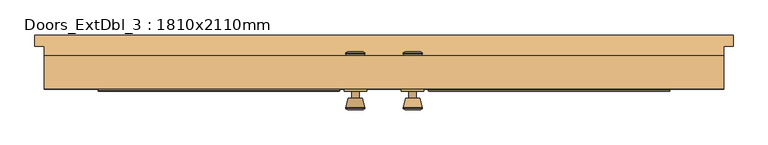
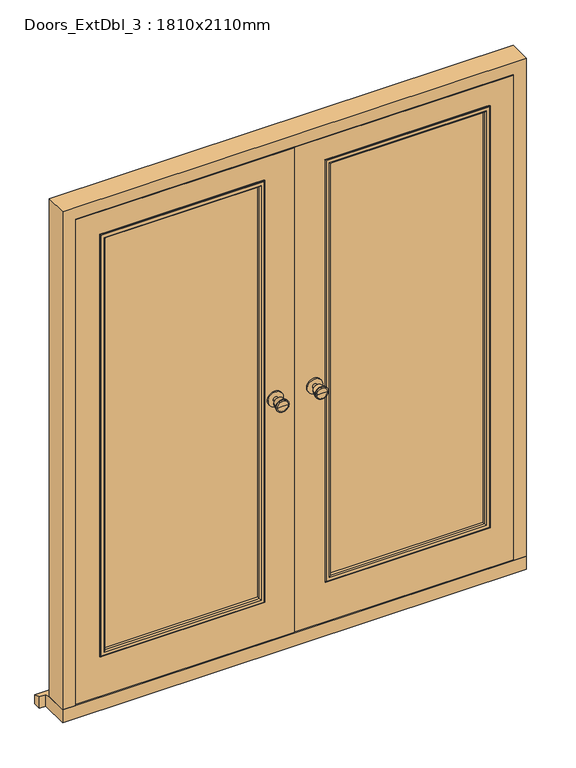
"""IFC4 building model written with IfcOpenShell, lengths in millimetres: door geometry, Doors_ExtDbl_3 : 1810x2110mm."""

from ifc_helpers import new_model, si_unit, point, frame, frame_2d, origin, place, context, project, spatial, polyline, circle_curve, ellipse_curve, trimmed, segment, composite_curve, outline, extrude, faceted_brep, source, transform, mapped, element, save
from ifc_brep_helpers import plane_surface, cylinder_surface, revolved_surface, advanced_brep


def doors_extdbl_3_1810x2110mm_e0e04a4e(model_context):
    return source(origin(), model_context, "Body", "SolidModel", [
        advanced_brep(
        [(-76.5, 5.0, 1050.0), (-66.5, 5.0, 1050.0), (-86.5, 5.0, 1050.0), (-96.9758676, -44.0, 1050.0), (-56.0241324, -44.0, 1050.0), (-76.5, -44.0, 1050.0), (-101.5, -42.1721319, 1050.0), (-51.5, -42.1721319, 1050.0), (-101.5, -38.7084537, 1050.0), (-51.5, -38.7084537, 1050.0), (-95.136236, -14.0, 1050.0), (-57.863764, -14.0, 1050.0), (-86.5, -14.0, 1050.0), (-66.5, -14.0, 1050.0)],
        [
            (0, 1),
            (1, 2, circle_curve(frame((-76.5, 5.0, 1050.0), z_axis=(0.0, 1.0, 0.0), x_axis=(1.0, 0.0, 0.0)), 10.0)),
            (2, 0),
            (2, 1, circle_curve(frame((-76.5, 5.0, 1050.0), z_axis=(0.0, 1.0, 0.0), x_axis=(1.0, 0.0, 0.0)), 10.0)),
            (3, 4, circle_curve(frame((-76.5, -44.0, 1050.0), z_axis=(0.0, -1.0, 0.0), x_axis=(1.0, 0.0, 0.0)), 20.4758676)),
            (4, 5),
            (5, 3),
            (4, 3, circle_curve(frame((-76.5, -44.0, 1050.0), z_axis=(0.0, -1.0, 0.0), x_axis=(1.0, 0.0, 0.0)), 20.4758676)),
            (6, 7, circle_curve(frame((-76.5, -42.1721319, 1050.0), z_axis=(0.0, -1.0, 0.0), x_axis=(1.0, 0.0, 0.0)), 25.0)),
            (7, 4),
            (3, 6),
            (7, 6, circle_curve(frame((-76.5, -42.1721319, 1050.0), z_axis=(0.0, -1.0, 0.0), x_axis=(1.0, 0.0, 0.0)), 25.0)),
            (8, 9, circle_curve(frame((-76.5, -38.7084537, 1050.0), z_axis=(0.0, -1.0, 0.0), x_axis=(1.0, 0.0, 0.0)), 25.0)),
            (9, 7),
            (6, 8),
            (9, 8, circle_curve(frame((-76.5, -38.7084537, 1050.0), z_axis=(0.0, -1.0, 0.0), x_axis=(1.0, 0.0, 0.0)), 25.0)),
            (10, 11, circle_curve(frame((-76.5, -14.0, 1050.0), z_axis=(0.0, -1.0, 0.0), x_axis=(1.0, 0.0, 0.0)), 18.636236)),
            (11, 9),
            (8, 10),
            (11, 10, circle_curve(frame((-76.5, -14.0, 1050.0), z_axis=(0.0, -1.0, 0.0), x_axis=(1.0, 0.0, 0.0)), 18.636236)),
            (12, 13, circle_curve(frame((-76.5, -14.0, 1050.0), z_axis=(0.0, -1.0, 0.0), x_axis=(1.0, 0.0, 0.0)), 10.0)),
            (13, 11),
            (10, 12),
            (13, 12, circle_curve(frame((-76.5, -14.0, 1050.0), z_axis=(0.0, -1.0, 0.0), x_axis=(1.0, 0.0, 0.0)), 10.0)),
            (1, 13),
            (12, 2),
        ],
        [
            plane_surface(frame((-76.5, 5.0, 1050.0), z_axis=(0.0, 1.0, 0.0), x_axis=(1.0, 0.0, 0.0))),
            plane_surface(frame((-76.5, -44.0, 1050.0), z_axis=(0.0, -1.0, 0.0), x_axis=(1.0, 0.0, 0.0))),
            revolved_surface(polyline([(-56.0241324, -44.0, 1050.0), (-51.5, -42.1721319, 1050.0)]), (-76.5, 5.0, 1050.0), (0.0, 1.0, 0.0)),
            cylinder_surface(frame((-76.5, 5.0, 1050.0), z_axis=(0.0, 1.0, 0.0), x_axis=(1.0, 0.0, 0.0)), 25.0),
            revolved_surface(polyline([(-51.5, -38.7084537, 1050.0), (-57.863764, -14.0, 1050.0)]), (-76.5, 5.0, 1050.0), (0.0, 1.0, 0.0)),
            plane_surface(frame((-76.5, -14.0, 1050.0), z_axis=(0.0, 1.0, 0.0), x_axis=(1.0, 0.0, 0.0))),
            cylinder_surface(frame((-76.5, 5.0, 1050.0), z_axis=(0.0, 1.0, 0.0), x_axis=(1.0, 0.0, 0.0)), 10.0),
        ],
        [
            (0, [[1, 2, 3]]),
            (0, [[-3, 4, -1]]),
            (1, [[5, 6, 7]]),
            (1, [[8, -7, -6]]),
            (2, [[9, 10, -5, 11]]),
            (2, [[12, -11, -8, -10]]),
            (3, [[13, 14, -9, 15]]),
            (3, [[16, -15, -12, -14]]),
            (4, [[17, 18, -13, 19]]),
            (4, [[20, -19, -16, -18]]),
            (5, [[21, 22, -17, 23]]),
            (5, [[24, -23, -20, -22]]),
            (6, [[-2, 25, -21, 26]]),
            (6, [[-4, -26, -24, -25]]),
        ],
    ),
        extrude(outline(composite_curve([segment(trimmed(circle_curve(frame_2d((1050.0, -76.5)), 30.0), [point((1050.0, -46.5))], [point((1050.0, -106.5))], False, "CARTESIAN"), True, "CONTINUOUS"), segment(trimmed(circle_curve(frame_2d((1050.0, -76.5)), 30.0), [point((1050.0, -106.5))], [point((1050.0, -46.5))], False, "CARTESIAN"), True, "CONTINUOUS")], self_intersect=False)), frame((0.0, 5.0, 0.0), z_axis=(0.0, 1.0, 0.0), x_axis=(0.0, 0.0, 1.0)), (0.0, 0.0, 1.0), 6.0),
        advanced_brep(
        [(-76.5, 61.0, 1050.0), (-86.5, 61.0, 1050.0), (-66.5, 61.0, 1050.0), (-96.9758676, 110.0, 1050.0), (-76.5, 110.0, 1050.0), (-56.0241324, 110.0, 1050.0), (-101.5, 108.1721319, 1050.0), (-51.5, 108.1721319, 1050.0), (-101.5, 104.7084537, 1050.0), (-51.5, 104.7084537, 1050.0), (-95.136236, 80.0, 1050.0), (-57.863764, 80.0, 1050.0), (-86.5, 80.0, 1050.0), (-66.5, 80.0, 1050.0)],
        [
            (0, 1),
            (1, 2, circle_curve(frame((-76.5, 61.0, 1050.0), z_axis=(0.0, -1.0, 0.0), x_axis=(1.0, 0.0, 0.0)), 10.0)),
            (2, 0),
            (2, 1, circle_curve(frame((-76.5, 61.0, 1050.0), z_axis=(0.0, -1.0, 0.0), x_axis=(1.0, 0.0, 0.0)), 10.0)),
            (3, 4),
            (4, 5),
            (5, 3, circle_curve(frame((-76.5, 110.0, 1050.0), z_axis=(0.0, 1.0, 0.0), x_axis=(1.0, 0.0, 0.0)), 20.4758676)),
            (3, 5, circle_curve(frame((-76.5, 110.0, 1050.0), z_axis=(0.0, 1.0, 0.0), x_axis=(1.0, 0.0, 0.0)), 20.4758676)),
            (6, 3),
            (5, 7),
            (7, 6, circle_curve(frame((-76.5, 108.1721319, 1050.0), z_axis=(0.0, 1.0, 0.0), x_axis=(1.0, 0.0, 0.0)), 25.0)),
            (6, 7, circle_curve(frame((-76.5, 108.1721319, 1050.0), z_axis=(0.0, 1.0, 0.0), x_axis=(1.0, 0.0, 0.0)), 25.0)),
            (8, 6),
            (7, 9),
            (9, 8, circle_curve(frame((-76.5, 104.7084537, 1050.0), z_axis=(0.0, 1.0, 0.0), x_axis=(1.0, 0.0, 0.0)), 25.0)),
            (8, 9, circle_curve(frame((-76.5, 104.7084537, 1050.0), z_axis=(0.0, 1.0, 0.0), x_axis=(1.0, 0.0, 0.0)), 25.0)),
            (10, 8),
            (9, 11),
            (11, 10, circle_curve(frame((-76.5, 80.0, 1050.0), z_axis=(0.0, 1.0, 0.0), x_axis=(1.0, 0.0, 0.0)), 18.636236)),
            (10, 11, circle_curve(frame((-76.5, 80.0, 1050.0), z_axis=(0.0, 1.0, 0.0), x_axis=(1.0, 0.0, 0.0)), 18.636236)),
            (12, 10),
            (11, 13),
            (13, 12, circle_curve(frame((-76.5, 80.0, 1050.0), z_axis=(0.0, 1.0, 0.0), x_axis=(1.0, 0.0, 0.0)), 10.0)),
            (12, 13, circle_curve(frame((-76.5, 80.0, 1050.0), z_axis=(0.0, 1.0, 0.0), x_axis=(1.0, 0.0, 0.0)), 10.0)),
            (1, 12),
            (13, 2),
        ],
        [
            plane_surface(frame((-76.5, 61.0, 1050.0), z_axis=(0.0, -1.0, 0.0), x_axis=(1.0, 0.0, 0.0))),
            plane_surface(frame((-76.5, 110.0, 1050.0), z_axis=(0.0, 1.0, 0.0), x_axis=(1.0, 0.0, 0.0))),
            revolved_surface(polyline([(-56.0241324, 110.0, 1050.0), (-51.5, 108.1721319, 1050.0)]), (-76.5, 61.0, 1050.0), (0.0, -1.0, 0.0)),
            cylinder_surface(frame((-76.5, 61.0, 1050.0), z_axis=(0.0, -1.0, 0.0), x_axis=(1.0, 0.0, 0.0)), 25.0),
            revolved_surface(polyline([(-51.5, 104.7084537, 1050.0), (-57.863764, 80.0, 1050.0)]), (-76.5, 61.0, 1050.0), (0.0, -1.0, 0.0)),
            plane_surface(frame((-76.5, 80.0, 1050.0), z_axis=(0.0, -1.0, 0.0), x_axis=(1.0, 0.0, 0.0))),
            cylinder_surface(frame((-76.5, 61.0, 1050.0), z_axis=(0.0, -1.0, 0.0), x_axis=(1.0, 0.0, 0.0)), 10.0),
        ],
        [
            (0, [[1, 2, 3]]),
            (0, [[-3, 4, -1]]),
            (1, [[5, 6, 7]]),
            (1, [[-6, -5, 8]]),
            (2, [[9, -7, 10, 11]]),
            (2, [[-10, -8, -9, 12]]),
            (3, [[13, -11, 14, 15]]),
            (3, [[-14, -12, -13, 16]]),
            (4, [[17, -15, 18, 19]]),
            (4, [[-18, -16, -17, 20]]),
            (5, [[21, -19, 22, 23]]),
            (5, [[-22, -20, -21, 24]]),
            (6, [[25, -23, 26, -2]]),
            (6, [[-26, -24, -25, -4]]),
        ],
    ),
        extrude(outline(composite_curve([segment(trimmed(circle_curve(frame_2d((1050.0, -76.5)), 30.0), [point((1050.0, -46.5))], [point((1050.0, -106.5))], False, "CARTESIAN"), True, "CONTINUOUS"), segment(trimmed(circle_curve(frame_2d((1050.0, -76.5)), 30.0), [point((1050.0, -106.5))], [point((1050.0, -46.5))], False, "CARTESIAN"), True, "CONTINUOUS")], self_intersect=False)), frame((0.0, 55.0, 0.0), z_axis=(0.0, 1.0, 0.0), x_axis=(0.0, 0.0, 1.0)), (0.0, 0.0, 1.0), 6.0),
        advanced_brep(
        [(76.5, 5.0, 1050.0), (86.5, 5.0, 1050.0), (66.5, 5.0, 1050.0), (96.9758676, -44.0, 1050.0), (76.5, -44.0, 1050.0), (56.0241324, -44.0, 1050.0), (101.5, -42.1721319, 1050.0), (51.5, -42.1721319, 1050.0), (101.5, -38.7084537, 1050.0), (51.5, -38.7084537, 1050.0), (95.136236, -14.0, 1050.0), (57.863764, -14.0, 1050.0), (86.5, -14.0, 1050.0), (66.5, -14.0, 1050.0)],
        [
            (0, 1),
            (1, 2, circle_curve(frame((76.5, 5.0, 1050.0), z_axis=(0.0, 1.0, 0.0), x_axis=(-1.0, 0.0, 0.0)), 10.0)),
            (2, 0),
            (2, 1, circle_curve(frame((76.5, 5.0, 1050.0), z_axis=(0.0, 1.0, 0.0), x_axis=(-1.0, 0.0, 0.0)), 10.0)),
            (3, 4),
            (4, 5),
            (5, 3, circle_curve(frame((76.5, -44.0, 1050.0), z_axis=(0.0, -1.0, 0.0), x_axis=(-1.0, 0.0, 0.0)), 20.4758676)),
            (3, 5, circle_curve(frame((76.5, -44.0, 1050.0), z_axis=(0.0, -1.0, 0.0), x_axis=(-1.0, 0.0, 0.0)), 20.4758676)),
            (6, 3),
            (5, 7),
            (7, 6, circle_curve(frame((76.5, -42.1721319, 1050.0), z_axis=(0.0, -1.0, 0.0), x_axis=(-1.0, 0.0, 0.0)), 25.0)),
            (6, 7, circle_curve(frame((76.5, -42.1721319, 1050.0), z_axis=(0.0, -1.0, 0.0), x_axis=(-1.0, 0.0, 0.0)), 25.0)),
            (8, 6),
            (7, 9),
            (9, 8, circle_curve(frame((76.5, -38.7084537, 1050.0), z_axis=(0.0, -1.0, 0.0), x_axis=(-1.0, 0.0, 0.0)), 25.0)),
            (8, 9, circle_curve(frame((76.5, -38.7084537, 1050.0), z_axis=(0.0, -1.0, 0.0), x_axis=(-1.0, 0.0, 0.0)), 25.0)),
            (10, 8),
            (9, 11),
            (11, 10, circle_curve(frame((76.5, -14.0, 1050.0), z_axis=(0.0, -1.0, 0.0), x_axis=(-1.0, 0.0, 0.0)), 18.636236)),
            (10, 11, circle_curve(frame((76.5, -14.0, 1050.0), z_axis=(0.0, -1.0, 0.0), x_axis=(-1.0, 0.0, 0.0)), 18.636236)),
            (12, 10),
            (11, 13),
            (13, 12, circle_curve(frame((76.5, -14.0, 1050.0), z_axis=(0.0, -1.0, 0.0), x_axis=(-1.0, 0.0, 0.0)), 10.0)),
            (12, 13, circle_curve(frame((76.5, -14.0, 1050.0), z_axis=(0.0, -1.0, 0.0), x_axis=(-1.0, 0.0, 0.0)), 10.0)),
            (1, 12),
            (13, 2),
        ],
        [
            plane_surface(frame((76.5, 5.0, 1050.0), z_axis=(0.0, 1.0, 0.0), x_axis=(-1.0, 0.0, 0.0))),
            plane_surface(frame((76.5, -44.0, 1050.0), z_axis=(0.0, -1.0, 0.0), x_axis=(-1.0, 0.0, 0.0))),
            revolved_surface(polyline([(56.0241324, -44.0, 1050.0), (51.5, -42.1721319, 1050.0)]), (76.5, 5.0, 1050.0), (0.0, 1.0, 0.0)),
            cylinder_surface(frame((76.5, 5.0, 1050.0), z_axis=(0.0, 1.0, 0.0), x_axis=(-1.0, 0.0, 0.0)), 25.0),
            revolved_surface(polyline([(51.5, -38.7084537, 1050.0), (57.863764, -14.0, 1050.0)]), (76.5, 5.0, 1050.0), (0.0, 1.0, 0.0)),
            plane_surface(frame((76.5, -14.0, 1050.0), z_axis=(0.0, 1.0, 0.0), x_axis=(-1.0, 0.0, 0.0))),
            cylinder_surface(frame((76.5, 5.0, 1050.0), z_axis=(0.0, 1.0, 0.0), x_axis=(-1.0, 0.0, 0.0)), 10.0),
        ],
        [
            (0, [[1, 2, 3]]),
            (0, [[-3, 4, -1]]),
            (1, [[5, 6, 7]]),
            (1, [[-6, -5, 8]]),
            (2, [[9, -7, 10, 11]]),
            (2, [[-10, -8, -9, 12]]),
            (3, [[13, -11, 14, 15]]),
            (3, [[-14, -12, -13, 16]]),
            (4, [[17, -15, 18, 19]]),
            (4, [[-18, -16, -17, 20]]),
            (5, [[21, -19, 22, 23]]),
            (5, [[-22, -20, -21, 24]]),
            (6, [[25, -23, 26, -2]]),
            (6, [[-26, -24, -25, -4]]),
        ],
    ),
        extrude(outline(composite_curve([segment(trimmed(circle_curve(frame_2d((1050.0, 76.5)), 30.0), [point((1050.0, 46.5))], [point((1050.0, 106.5))], False, "CARTESIAN"), True, "CONTINUOUS"), segment(trimmed(circle_curve(frame_2d((1050.0, 76.5)), 30.0), [point((1050.0, 106.5))], [point((1050.0, 46.5))], False, "CARTESIAN"), True, "CONTINUOUS")], self_intersect=False)), frame((0.0, 5.0, 0.0), z_axis=(0.0, 1.0, 0.0), x_axis=(0.0, 0.0, 1.0)), (0.0, 0.0, 1.0), 6.0),
        advanced_brep(
        [(76.5, 61.0, 1050.0), (66.5, 61.0, 1050.0), (86.5, 61.0, 1050.0), (96.9758676, 110.0, 1050.0), (56.0241324, 110.0, 1050.0), (76.5, 110.0, 1050.0), (101.5, 108.1721319, 1050.0), (51.5, 108.1721319, 1050.0), (101.5, 104.7084537, 1050.0), (51.5, 104.7084537, 1050.0), (95.136236, 80.0, 1050.0), (57.863764, 80.0, 1050.0), (86.5, 80.0, 1050.0), (66.5, 80.0, 1050.0)],
        [
            (0, 1),
            (1, 2, circle_curve(frame((76.5, 61.0, 1050.0), z_axis=(0.0, -1.0, 0.0), x_axis=(-1.0, 0.0, 0.0)), 10.0)),
            (2, 0),
            (2, 1, circle_curve(frame((76.5, 61.0, 1050.0), z_axis=(0.0, -1.0, 0.0), x_axis=(-1.0, 0.0, 0.0)), 10.0)),
            (3, 4, circle_curve(frame((76.5, 110.0, 1050.0), z_axis=(0.0, 1.0, 0.0), x_axis=(-1.0, 0.0, 0.0)), 20.4758676)),
            (4, 5),
            (5, 3),
            (4, 3, circle_curve(frame((76.5, 110.0, 1050.0), z_axis=(0.0, 1.0, 0.0), x_axis=(-1.0, 0.0, 0.0)), 20.4758676)),
            (6, 7, circle_curve(frame((76.5, 108.1721319, 1050.0), z_axis=(0.0, 1.0, 0.0), x_axis=(-1.0, 0.0, 0.0)), 25.0)),
            (7, 4),
            (3, 6),
            (7, 6, circle_curve(frame((76.5, 108.1721319, 1050.0), z_axis=(0.0, 1.0, 0.0), x_axis=(-1.0, 0.0, 0.0)), 25.0)),
            (8, 9, circle_curve(frame((76.5, 104.7084537, 1050.0), z_axis=(0.0, 1.0, 0.0), x_axis=(-1.0, 0.0, 0.0)), 25.0)),
            (9, 7),
            (6, 8),
            (9, 8, circle_curve(frame((76.5, 104.7084537, 1050.0), z_axis=(0.0, 1.0, 0.0), x_axis=(-1.0, 0.0, 0.0)), 25.0)),
            (10, 11, circle_curve(frame((76.5, 80.0, 1050.0), z_axis=(0.0, 1.0, 0.0), x_axis=(-1.0, 0.0, 0.0)), 18.636236)),
            (11, 9),
            (8, 10),
            (11, 10, circle_curve(frame((76.5, 80.0, 1050.0), z_axis=(0.0, 1.0, 0.0), x_axis=(-1.0, 0.0, 0.0)), 18.636236)),
            (12, 13, circle_curve(frame((76.5, 80.0, 1050.0), z_axis=(0.0, 1.0, 0.0), x_axis=(-1.0, 0.0, 0.0)), 10.0)),
            (13, 11),
            (10, 12),
            (13, 12, circle_curve(frame((76.5, 80.0, 1050.0), z_axis=(0.0, 1.0, 0.0), x_axis=(-1.0, 0.0, 0.0)), 10.0)),
            (1, 13),
            (12, 2),
        ],
        [
            plane_surface(frame((76.5, 61.0, 1050.0), z_axis=(0.0, -1.0, 0.0), x_axis=(-1.0, 0.0, 0.0))),
            plane_surface(frame((76.5, 110.0, 1050.0), z_axis=(0.0, 1.0, 0.0), x_axis=(-1.0, 0.0, 0.0))),
            revolved_surface(polyline([(56.0241324, 110.0, 1050.0), (51.5, 108.1721319, 1050.0)]), (76.5, 61.0, 1050.0), (0.0, -1.0, 0.0)),
            cylinder_surface(frame((76.5, 61.0, 1050.0), z_axis=(0.0, -1.0, 0.0), x_axis=(-1.0, 0.0, 0.0)), 25.0),
            revolved_surface(polyline([(51.5, 104.7084537, 1050.0), (57.863764, 80.0, 1050.0)]), (76.5, 61.0, 1050.0), (0.0, -1.0, 0.0)),
            plane_surface(frame((76.5, 80.0, 1050.0), z_axis=(0.0, -1.0, 0.0), x_axis=(-1.0, 0.0, 0.0))),
            cylinder_surface(frame((76.5, 61.0, 1050.0), z_axis=(0.0, -1.0, 0.0), x_axis=(-1.0, 0.0, 0.0)), 10.0),
        ],
        [
            (0, [[1, 2, 3]]),
            (0, [[-3, 4, -1]]),
            (1, [[5, 6, 7]]),
            (1, [[8, -7, -6]]),
            (2, [[9, 10, -5, 11]]),
            (2, [[12, -11, -8, -10]]),
            (3, [[13, 14, -9, 15]]),
            (3, [[16, -15, -12, -14]]),
            (4, [[17, 18, -13, 19]]),
            (4, [[20, -19, -16, -18]]),
            (5, [[21, 22, -17, 23]]),
            (5, [[24, -23, -20, -22]]),
            (6, [[-2, 25, -21, 26]]),
            (6, [[-4, -26, -24, -25]]),
        ],
    ),
        extrude(outline(composite_curve([segment(trimmed(circle_curve(frame_2d((1050.0, 76.5)), 30.0), [point((1050.0, 46.5))], [point((1050.0, 106.5))], False, "CARTESIAN"), True, "CONTINUOUS"), segment(trimmed(circle_curve(frame_2d((1050.0, 76.5)), 30.0), [point((1050.0, 106.5))], [point((1050.0, 46.5))], False, "CARTESIAN"), True, "CONTINUOUS")], self_intersect=False)), frame((0.0, 55.0, 0.0), z_axis=(0.0, 1.0, 0.0), x_axis=(0.0, 0.0, 1.0)), (0.0, 0.0, 1.0), 6.0),
        faceted_brep([(834.5, 100.0, 54.5), (905.0, 100.0, 54.5), (905.0, 11.0, 54.5), (856.5, 11.0, 54.5), (856.5, 58.0, 54.5), (834.5, 58.0, 54.5), (834.5, 100.0, 2039.5), (-834.5, 100.0, 2039.5), (-834.5, 100.0, 54.5), (-905.0, 100.0, 54.5), (-905.0, 100.0, 2110.0), (905.0, 100.0, 2110.0), (905.0, 11.0, 2110.0), (-905.0, 11.0, 2110.0), (-905.0, 11.0, 54.5), (-856.5, 11.0, 54.5), (-856.5, 11.0, 2061.5), (856.5, 11.0, 2061.5), (856.5, 58.0, 2061.5), (-856.5, 58.0, 2061.5), (-856.5, 58.0, 54.5), (-834.5, 58.0, 54.5), (-834.5, 58.0, 2039.5), (834.5, 58.0, 2039.5)], [[[0, 1, 2, 3, 4, 5]], [[1, 0, 6, 7, 8, 9, 10, 11]], [[2, 1, 11, 12]], [[3, 2, 12, 13, 14, 15, 16, 17]], [[4, 3, 17, 18]], [[5, 4, 18, 19, 20, 21, 22, 23]], [[0, 5, 23, 6]], [[7, 22, 21, 8]], [[8, 21, 20, 15, 14, 9]], [[13, 10, 9, 14]], [[19, 16, 15, 20]], [[12, 11, 10, 13]], [[18, 17, 16, 19]], [[6, 23, 22, 7]]]),
        extrude(outline(polyline([(58.5, 853.5), (2058.5, 853.5), (2058.5, 1.5), (58.5, 1.5), (58.5, 853.5)]), holes=[polyline([(1958.5, 753.5), (233.5, 753.5), (233.5, 126.5), (1958.5, 126.5), (1958.5, 753.5)])]), frame((0.0, 11.0, 0.0), z_axis=(0.0, 1.0, 0.0), x_axis=(0.0, 0.0, 1.0)), (0.0, 0.0, 1.0), 44.0),
        extrude(outline(polyline([(58.5, -853.5), (58.5, -1.5), (2058.5, -1.5), (2058.5, -853.5), (58.5, -853.5)]), holes=[polyline([(1958.5, -126.5), (233.5, -126.5), (233.5, -753.5), (1958.5, -753.5), (1958.5, -126.5)])]), frame((0.0, 11.0, 0.0), z_axis=(0.0, 1.0, 0.0), x_axis=(0.0, 0.0, 1.0)), (0.0, 0.0, 1.0), 44.0),
        faceted_brep([(930.0, 155.0, 0.0), (930.0, 155.0, 38.5947221), (930.0, 125.0, 47.2703282), (930.0, 125.0, 0.0), (-930.0, 155.0, 38.5947221), (-930.0, 155.0, 0.0), (-930.0, 125.0, 0.0), (-930.0, 125.0, 47.2703282), (905.0, 125.0, 0.0), (905.0, 11.0, 0.0), (-905.0, 11.0, 0.0), (-905.0, 125.0, 0.0), (-905.0, 125.0, 47.2703282), (-905.0, 100.0, 54.5), (905.0, 100.0, 54.5), (905.0, 125.0, 47.2703282), (-905.0, 11.0, 54.5), (905.0, 11.0, 54.5)], [[[0, 1, 2, 3]], [[4, 5, 6, 7]], [[5, 0, 3, 8, 9, 10, 11, 6]], [[1, 0, 5, 4]], [[1, 4, 7, 12, 13, 14, 15, 2]], [[13, 16, 17, 14]], [[16, 10, 9, 17]], [[12, 11, 10, 16, 13]], [[11, 12, 7, 6]], [[8, 15, 14, 17, 9]], [[15, 8, 3, 2]]]),
        extrude(outline(polyline([(126.5, 45.0), (753.5, 45.0), (753.5, 21.0), (126.5, 21.0), (126.5, 45.0)])), frame((0.0, 0.0, 233.5), z_axis=(0.0, 0.0, 1.0), x_axis=(1.0, 0.0, 0.0)), (0.0, 0.0, 1.0), 1725.0),
        extrude(outline(polyline([(-753.5, 45.0), (-126.5, 45.0), (-126.5, 21.0), (-753.5, 21.0), (-753.5, 45.0)])), frame((0.0, 0.0, 233.5), z_axis=(0.0, 0.0, 1.0), x_axis=(1.0, 0.0, 0.0)), (0.0, 0.0, 1.0), 1725.0),
        advanced_brep(
        [(118.5, 59.0, 225.5), (118.5, 55.0, 225.5), (118.5, 55.0, 1966.5), (118.5, 59.0, 1966.5), (120.5, 61.0, 227.5), (120.5, 61.0, 1964.5), (138.5, 56.0, 245.5), (133.5, 61.0, 240.5), (133.5, 61.0, 1951.5), (138.5, 56.0, 1946.5), (138.5, 45.0, 245.5), (138.5, 45.0, 1946.5), (126.5, 55.0, 233.5), (126.5, 45.0, 233.5), (126.5, 45.0, 1958.5), (126.5, 55.0, 1958.5), (761.5, 55.0, 1966.5), (761.5, 59.0, 1966.5), (759.5, 61.0, 1964.5), (746.5, 61.0, 1951.5), (741.5, 56.0, 1946.5), (741.5, 45.0, 1946.5), (753.5, 45.0, 1958.5), (753.5, 55.0, 1958.5), (761.5, 55.0, 225.5), (761.5, 59.0, 225.5), (759.5, 61.0, 227.5), (746.5, 61.0, 240.5), (741.5, 56.0, 245.5), (741.5, 45.0, 245.5), (753.5, 45.0, 233.5), (753.5, 55.0, 233.5)],
        [
            (0, 1),
            (1, 2),
            (2, 3),
            (3, 0),
            (4, 0, ellipse_curve(frame((120.5, 59.0, 227.5), z_axis=(-0.7071067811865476, 0.0, 0.7071067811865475), x_axis=(-0.7071067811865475, 0.0, -0.7071067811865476)), 2.8284271, 2.0)),
            (3, 5, ellipse_curve(frame((120.5, 59.0, 1964.5), z_axis=(-0.7071067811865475, 0.0, -0.7071067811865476), x_axis=(0.7071067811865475, 0.0, -0.7071067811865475)), 2.8284271, 2.0)),
            (5, 4),
            (6, 7, ellipse_curve(frame((133.5, 56.0, 240.5), z_axis=(-0.7071067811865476, 0.0, 0.7071067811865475), x_axis=(-0.7071067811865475, 0.0, -0.7071067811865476)), 7.0710678, 5.0)),
            (7, 8),
            (8, 9, ellipse_curve(frame((133.5, 56.0, 1951.5), z_axis=(-0.7071067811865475, 0.0, -0.7071067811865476), x_axis=(0.7071067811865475, 0.0, -0.7071067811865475)), 7.0710678, 5.0)),
            (9, 6),
            (10, 6),
            (9, 11),
            (11, 10),
            (12, 13),
            (13, 14),
            (14, 15),
            (15, 12),
            (2, 16),
            (16, 17),
            (17, 3),
            (17, 18, ellipse_curve(frame((759.5, 59.0, 1964.5), z_axis=(-0.7071067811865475, 0.0, 0.7071067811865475), x_axis=(-0.7071067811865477, 0.0, -0.7071067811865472)), 2.8284271, 2.0)),
            (18, 5),
            (8, 19),
            (19, 20, ellipse_curve(frame((746.5, 56.0, 1951.5), z_axis=(-0.7071067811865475, 0.0, 0.7071067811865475), x_axis=(-0.7071067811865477, 0.0, -0.7071067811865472)), 7.0710678, 5.0)),
            (20, 9),
            (20, 21),
            (21, 11),
            (14, 22),
            (22, 23),
            (23, 15),
            (16, 24),
            (24, 25),
            (25, 17),
            (25, 26, ellipse_curve(frame((759.5, 59.0, 227.5), z_axis=(0.7071067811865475, 0.0, 0.7071067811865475), x_axis=(-0.7071067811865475, 0.0, 0.7071067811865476)), 2.8284271, 2.0)),
            (26, 18),
            (19, 27),
            (27, 28, ellipse_curve(frame((746.5, 56.0, 240.5), z_axis=(0.7071067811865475, 0.0, 0.7071067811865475), x_axis=(-0.7071067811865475, 0.0, 0.7071067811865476)), 7.0710678, 5.0)),
            (28, 20),
            (28, 29),
            (29, 21),
            (22, 30),
            (30, 31),
            (31, 23),
            (24, 1),
            (0, 25),
            (4, 26),
            (7, 27),
            (6, 28),
            (10, 29),
            (13, 30),
            (12, 31),
        ],
        [
            plane_surface(frame((118.5, 55.0, 225.5), z_axis=(-1.0, 0.0, 0.0), x_axis=(0.0, 0.0, 1.0))),
            cylinder_surface(frame((120.5, 59.0, 233.5), z_axis=(0.0, 0.0, -1.0), x_axis=(-1.0, 0.0, 0.0)), 2.0),
            cylinder_surface(frame((133.5, 56.0, 233.5), z_axis=(0.0, 0.0, -1.0), x_axis=(-1.0, 0.0, 0.0)), 5.0),
            plane_surface(frame((138.5, 56.0, 245.5), z_axis=(1.0, 0.0, 0.0), x_axis=(0.0, 0.0, 1.0))),
            plane_surface(frame((126.5, 45.0, 233.5), z_axis=(-1.0, 0.0, 0.0), x_axis=(0.0, 0.0, 1.0))),
            plane_surface(frame((118.5, 55.0, 1966.5), z_axis=(0.0, 0.0, 1.0), x_axis=(1.0, 0.0, 0.0))),
            cylinder_surface(frame((126.5, 59.0, 1964.5), z_axis=(-1.0, 0.0, 0.0), x_axis=(0.0, 0.0, 1.0)), 2.0),
            cylinder_surface(frame((126.5, 56.0, 1951.5), z_axis=(-1.0, 0.0, 0.0), x_axis=(0.0, 0.0, 1.0)), 5.0),
            plane_surface(frame((138.5, 56.0, 1946.5), z_axis=(0.0, 0.0, -1.0), x_axis=(1.0, 0.0, 0.0))),
            plane_surface(frame((126.5, 45.0, 1958.5), z_axis=(0.0, 0.0, 1.0), x_axis=(1.0, 0.0, 0.0))),
            plane_surface(frame((761.5, 55.0, 1966.5), z_axis=(1.0, 0.0, 0.0), x_axis=(0.0, 0.0, -1.0))),
            cylinder_surface(frame((759.5, 59.0, 1958.5), z_axis=(0.0, 0.0, 1.0), x_axis=(1.0, 0.0, 0.0)), 2.0),
            cylinder_surface(frame((746.5, 56.0, 1958.5), z_axis=(0.0, 0.0, 1.0), x_axis=(1.0, 0.0, 0.0)), 5.0),
            plane_surface(frame((741.5, 56.0, 1946.5), z_axis=(-1.0, 0.0, 0.0), x_axis=(0.0, 0.0, -1.0))),
            plane_surface(frame((753.5, 45.0, 1958.5), z_axis=(1.0, 0.0, 0.0), x_axis=(0.0, 0.0, -1.0))),
            plane_surface(frame((761.5, 55.0, 225.5), z_axis=(0.0, 0.0, -1.0), x_axis=(-1.0, 0.0, 0.0))),
            cylinder_surface(frame((753.5, 59.0, 227.5), z_axis=(1.0, 0.0, 0.0), x_axis=(0.0, 0.0, -1.0)), 2.0),
            plane_surface(frame((759.5, 61.0, 227.5), z_axis=(0.0, 1.0, 0.0), x_axis=(-1.0, 0.0, 0.0))),
            cylinder_surface(frame((753.5, 56.0, 240.5), z_axis=(1.0, 0.0, 0.0), x_axis=(0.0, 0.0, -1.0)), 5.0),
            plane_surface(frame((741.5, 56.0, 245.5), z_axis=(0.0, 0.0, 1.0), x_axis=(-1.0, 0.0, 0.0))),
            plane_surface(frame((741.5, 45.0, 245.5), z_axis=(0.0, -1.0, 0.0), x_axis=(-1.0, 0.0, 0.0))),
            plane_surface(frame((753.5, 45.0, 233.5), z_axis=(0.0, 0.0, -1.0), x_axis=(-1.0, 0.0, 0.0))),
            plane_surface(frame((753.5, 55.0, 233.5), z_axis=(0.0, -1.0, 0.0), x_axis=(-1.0, 0.0, 0.0))),
        ],
        [
            (0, [[1, 2, 3, 4]]),
            (1, [[5, -4, 6, 7]]),
            (2, [[8, 9, 10, 11]]),
            (3, [[12, -11, 13, 14]]),
            (4, [[15, 16, 17, 18]]),
            (5, [[-3, 19, 20, 21]]),
            (6, [[-6, -21, 22, 23]]),
            (7, [[-10, 24, 25, 26]]),
            (8, [[-13, -26, 27, 28]]),
            (9, [[-17, 29, 30, 31]]),
            (10, [[-20, 32, 33, 34]]),
            (11, [[-22, -34, 35, 36]]),
            (12, [[-25, 37, 38, 39]]),
            (13, [[-27, -39, 40, 41]]),
            (14, [[-30, 42, 43, 44]]),
            (15, [[-33, 45, -1, 46]]),
            (16, [[-35, -46, -5, 47]]),
            (17, [[-23, -36, -47, -7], [48, -37, -24, -9]]),
            (18, [[-38, -48, -8, 49]]),
            (19, [[-40, -49, -12, 50]]),
            (20, [[51, -42, -29, -16], [-28, -41, -50, -14]]),
            (21, [[-43, -51, -15, 52]]),
            (22, [[-45, -32, -19, -2], [-31, -44, -52, -18]]),
        ],
    ),
        advanced_brep(
        [(753.5, 21.0, 1958.5), (753.5, 11.0, 1958.5), (753.5, 11.0, 233.5), (753.5, 21.0, 233.5), (741.5, 10.0, 1946.5), (741.5, 21.0, 1946.5), (741.5, 21.0, 245.5), (741.5, 10.0, 245.5), (746.5, 5.0, 1951.5), (746.5, 5.0, 240.5), (761.5, 7.0, 1966.5), (759.5, 5.0, 1964.5), (759.5, 5.0, 227.5), (761.5, 7.0, 225.5), (761.5, 11.0, 1966.5), (761.5, 11.0, 225.5), (126.5, 11.0, 233.5), (126.5, 21.0, 233.5), (138.5, 21.0, 245.5), (138.5, 10.0, 245.5), (133.5, 5.0, 240.5), (120.5, 5.0, 227.5), (118.5, 7.0, 225.5), (118.5, 11.0, 225.5), (126.5, 11.0, 1958.5), (126.5, 21.0, 1958.5), (138.5, 21.0, 1946.5), (138.5, 10.0, 1946.5), (133.5, 5.0, 1951.5), (120.5, 5.0, 1964.5), (118.5, 7.0, 1966.5), (118.5, 11.0, 1966.5)],
        [
            (0, 1),
            (1, 2),
            (2, 3),
            (3, 0),
            (4, 5),
            (5, 6),
            (6, 7),
            (7, 4),
            (8, 4, ellipse_curve(frame((746.5, 10.0, 1951.5), z_axis=(0.7071067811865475, 0.0, -0.7071067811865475), x_axis=(0.7071067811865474, 0.0, 0.7071067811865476)), 7.0710678, 5.0)),
            (7, 9, ellipse_curve(frame((746.5, 10.0, 240.5), z_axis=(0.7071067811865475, 0.0, 0.7071067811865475), x_axis=(-0.7071067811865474, 0.0, 0.7071067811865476)), 7.0710678, 5.0)),
            (9, 8),
            (10, 11, ellipse_curve(frame((759.5, 7.0, 1964.5), z_axis=(0.7071067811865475, 0.0, -0.7071067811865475), x_axis=(0.7071067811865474, 0.0, 0.7071067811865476)), 2.8284271, 2.0)),
            (11, 12),
            (12, 13, ellipse_curve(frame((759.5, 7.0, 227.5), z_axis=(0.7071067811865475, 0.0, 0.7071067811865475), x_axis=(-0.7071067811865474, 0.0, 0.7071067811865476)), 2.8284271, 2.0)),
            (13, 10),
            (14, 10),
            (13, 15),
            (15, 14),
            (2, 16),
            (16, 17),
            (17, 3),
            (6, 18),
            (18, 19),
            (19, 7),
            (19, 20, ellipse_curve(frame((133.5, 10.0, 240.5), z_axis=(0.7071067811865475, 0.0, -0.7071067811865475), x_axis=(0.7071067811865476, 0.0, 0.7071067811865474)), 7.0710678, 5.0)),
            (20, 9),
            (12, 21),
            (21, 22, ellipse_curve(frame((120.5, 7.0, 227.5), z_axis=(0.7071067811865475, 0.0, -0.7071067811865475), x_axis=(0.7071067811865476, 0.0, 0.7071067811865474)), 2.8284271, 2.0)),
            (22, 13),
            (22, 23),
            (23, 15),
            (16, 24),
            (24, 25),
            (25, 17),
            (18, 26),
            (26, 27),
            (27, 19),
            (27, 28, ellipse_curve(frame((133.5, 10.0, 1951.5), z_axis=(-0.7071067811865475, 0.0, -0.7071067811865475), x_axis=(0.7071067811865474, 0.0, -0.7071067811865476)), 7.0710678, 5.0)),
            (28, 20),
            (21, 29),
            (29, 30, ellipse_curve(frame((120.5, 7.0, 1964.5), z_axis=(-0.7071067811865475, 0.0, -0.7071067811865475), x_axis=(0.7071067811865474, 0.0, -0.7071067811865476)), 2.8284271, 2.0)),
            (30, 22),
            (30, 31),
            (31, 23),
            (31, 14),
            (1, 24),
            (0, 25),
            (5, 26),
            (4, 27),
            (8, 28),
            (11, 29),
            (10, 30),
        ],
        [
            plane_surface(frame((753.5, 11.0, 1958.5), z_axis=(1.0, 0.0, 0.0), x_axis=(0.0, 0.0, -1.0))),
            plane_surface(frame((741.5, 21.0, 1946.5), z_axis=(-1.0, 0.0, 0.0), x_axis=(0.0, 0.0, -1.0))),
            cylinder_surface(frame((746.5, 10.0, 1958.5), z_axis=(0.0, 0.0, 1.0), x_axis=(1.0, 0.0, 0.0)), 5.0),
            cylinder_surface(frame((759.5, 7.0, 1958.5), z_axis=(0.0, 0.0, 1.0), x_axis=(1.0, 0.0, 0.0)), 2.0),
            plane_surface(frame((761.5, 7.0, 1966.5), z_axis=(1.0, 0.0, 0.0), x_axis=(0.0, 0.0, -1.0))),
            plane_surface(frame((753.5, 11.0, 233.5), z_axis=(0.0, 0.0, -1.0), x_axis=(-1.0, 0.0, 0.0))),
            plane_surface(frame((741.5, 21.0, 245.5), z_axis=(0.0, 0.0, 1.0), x_axis=(-1.0, 0.0, 0.0))),
            cylinder_surface(frame((753.5, 10.0, 240.5), z_axis=(1.0, 0.0, 0.0), x_axis=(0.0, 0.0, -1.0)), 5.0),
            cylinder_surface(frame((753.5, 7.0, 227.5), z_axis=(1.0, 0.0, 0.0), x_axis=(0.0, 0.0, -1.0)), 2.0),
            plane_surface(frame((761.5, 7.0, 225.5), z_axis=(0.0, 0.0, -1.0), x_axis=(-1.0, 0.0, 0.0))),
            plane_surface(frame((126.5, 11.0, 233.5), z_axis=(-1.0, 0.0, 0.0), x_axis=(0.0, 0.0, 1.0))),
            plane_surface(frame((138.5, 21.0, 245.5), z_axis=(1.0, 0.0, 0.0), x_axis=(0.0, 0.0, 1.0))),
            cylinder_surface(frame((133.5, 10.0, 233.5), z_axis=(0.0, 0.0, -1.0), x_axis=(-1.0, 0.0, 0.0)), 5.0),
            cylinder_surface(frame((120.5, 7.0, 233.5), z_axis=(0.0, 0.0, -1.0), x_axis=(-1.0, 0.0, 0.0)), 2.0),
            plane_surface(frame((118.5, 7.0, 225.5), z_axis=(-1.0, 0.0, 0.0), x_axis=(0.0, 0.0, 1.0))),
            plane_surface(frame((118.5, 11.0, 1966.5), z_axis=(0.0, 1.0, 0.0), x_axis=(1.0, 0.0, 0.0))),
            plane_surface(frame((126.5, 11.0, 1958.5), z_axis=(0.0, 0.0, 1.0), x_axis=(1.0, 0.0, 0.0))),
            plane_surface(frame((126.5, 21.0, 1958.5), z_axis=(0.0, 1.0, 0.0), x_axis=(1.0, 0.0, 0.0))),
            plane_surface(frame((138.5, 21.0, 1946.5), z_axis=(0.0, 0.0, -1.0), x_axis=(1.0, 0.0, 0.0))),
            cylinder_surface(frame((126.5, 10.0, 1951.5), z_axis=(-1.0, 0.0, 0.0), x_axis=(0.0, 0.0, 1.0)), 5.0),
            plane_surface(frame((133.5, 5.0, 1951.5), z_axis=(0.0, -1.0, 0.0), x_axis=(1.0, 0.0, 0.0))),
            cylinder_surface(frame((126.5, 7.0, 1964.5), z_axis=(-1.0, 0.0, 0.0), x_axis=(0.0, 0.0, 1.0)), 2.0),
            plane_surface(frame((118.5, 7.0, 1966.5), z_axis=(0.0, 0.0, 1.0), x_axis=(1.0, 0.0, 0.0))),
        ],
        [
            (0, [[1, 2, 3, 4]]),
            (1, [[5, 6, 7, 8]]),
            (2, [[9, -8, 10, 11]]),
            (3, [[12, 13, 14, 15]]),
            (4, [[16, -15, 17, 18]]),
            (5, [[-3, 19, 20, 21]]),
            (6, [[-7, 22, 23, 24]]),
            (7, [[-10, -24, 25, 26]]),
            (8, [[-14, 27, 28, 29]]),
            (9, [[-17, -29, 30, 31]]),
            (10, [[-20, 32, 33, 34]]),
            (11, [[-23, 35, 36, 37]]),
            (12, [[-25, -37, 38, 39]]),
            (13, [[-28, 40, 41, 42]]),
            (14, [[-30, -42, 43, 44]]),
            (15, [[-31, -44, 45, -18], [46, -32, -19, -2]]),
            (16, [[-33, -46, -1, 47]]),
            (17, [[-21, -34, -47, -4], [48, -35, -22, -6]]),
            (18, [[-36, -48, -5, 49]]),
            (19, [[-38, -49, -9, 50]]),
            (20, [[51, -40, -27, -13], [-26, -39, -50, -11]]),
            (21, [[-41, -51, -12, 52]]),
            (22, [[-43, -52, -16, -45]]),
        ],
    ),
        advanced_brep(
        [(-753.5, 45.0, 1958.5), (-753.5, 55.0, 1958.5), (-753.5, 55.0, 233.5), (-753.5, 45.0, 233.5), (-741.5, 56.0, 1946.5), (-741.5, 45.0, 1946.5), (-741.5, 45.0, 245.5), (-741.5, 56.0, 245.5), (-746.5, 61.0, 1951.5), (-746.5, 61.0, 240.5), (-761.5, 59.0, 1966.5), (-759.5, 61.0, 1964.5), (-759.5, 61.0, 227.5), (-761.5, 59.0, 225.5), (-761.5, 55.0, 1966.5), (-761.5, 55.0, 225.5), (-126.5, 55.0, 233.5), (-126.5, 45.0, 233.5), (-138.5, 45.0, 245.5), (-138.5, 56.0, 245.5), (-133.5, 61.0, 240.5), (-120.5, 61.0, 227.5), (-118.5, 59.0, 225.5), (-118.5, 55.0, 225.5), (-126.5, 55.0, 1958.5), (-126.5, 45.0, 1958.5), (-138.5, 45.0, 1946.5), (-138.5, 56.0, 1946.5), (-133.5, 61.0, 1951.5), (-120.5, 61.0, 1964.5), (-118.5, 59.0, 1966.5), (-118.5, 55.0, 1966.5)],
        [
            (0, 1),
            (1, 2),
            (2, 3),
            (3, 0),
            (4, 5),
            (5, 6),
            (6, 7),
            (7, 4),
            (8, 4, ellipse_curve(frame((-746.5, 56.0, 1951.5), z_axis=(-0.7071067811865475, 0.0, -0.7071067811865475), x_axis=(-0.7071067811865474, 0.0, 0.7071067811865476)), 7.0710678, 5.0)),
            (7, 9, ellipse_curve(frame((-746.5, 56.0, 240.5), z_axis=(-0.7071067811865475, 0.0, 0.7071067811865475), x_axis=(0.7071067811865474, 0.0, 0.7071067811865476)), 7.0710678, 5.0)),
            (9, 8),
            (10, 11, ellipse_curve(frame((-759.5, 59.0, 1964.5), z_axis=(-0.7071067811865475, 0.0, -0.7071067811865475), x_axis=(-0.7071067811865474, 0.0, 0.7071067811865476)), 2.8284271, 2.0)),
            (11, 12),
            (12, 13, ellipse_curve(frame((-759.5, 59.0, 227.5), z_axis=(-0.7071067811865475, 0.0, 0.7071067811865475), x_axis=(0.7071067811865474, 0.0, 0.7071067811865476)), 2.8284271, 2.0)),
            (13, 10),
            (14, 10),
            (13, 15),
            (15, 14),
            (2, 16),
            (16, 17),
            (17, 3),
            (6, 18),
            (18, 19),
            (19, 7),
            (19, 20, ellipse_curve(frame((-133.5, 56.0, 240.5), z_axis=(-0.7071067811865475, 0.0, -0.7071067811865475), x_axis=(-0.7071067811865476, 0.0, 0.7071067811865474)), 7.0710678, 5.0)),
            (20, 9),
            (12, 21),
            (21, 22, ellipse_curve(frame((-120.5, 59.0, 227.5), z_axis=(-0.7071067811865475, 0.0, -0.7071067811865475), x_axis=(-0.7071067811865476, 0.0, 0.7071067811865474)), 2.8284271, 2.0)),
            (22, 13),
            (22, 23),
            (23, 15),
            (16, 24),
            (24, 25),
            (25, 17),
            (18, 26),
            (26, 27),
            (27, 19),
            (27, 28, ellipse_curve(frame((-133.5, 56.0, 1951.5), z_axis=(0.7071067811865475, 0.0, -0.7071067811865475), x_axis=(-0.7071067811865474, 0.0, -0.7071067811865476)), 7.0710678, 5.0)),
            (28, 20),
            (21, 29),
            (29, 30, ellipse_curve(frame((-120.5, 59.0, 1964.5), z_axis=(0.7071067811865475, 0.0, -0.7071067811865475), x_axis=(-0.7071067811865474, 0.0, -0.7071067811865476)), 2.8284271, 2.0)),
            (30, 22),
            (30, 31),
            (31, 23),
            (31, 14),
            (1, 24),
            (0, 25),
            (5, 26),
            (4, 27),
            (8, 28),
            (11, 29),
            (10, 30),
        ],
        [
            plane_surface(frame((-753.5, 55.0, 1958.5), z_axis=(-1.0, 0.0, 0.0), x_axis=(0.0, 0.0, -1.0))),
            plane_surface(frame((-741.5, 45.0, 1946.5), z_axis=(1.0, 0.0, 0.0), x_axis=(0.0, 0.0, -1.0))),
            cylinder_surface(frame((-746.5, 56.0, 1958.5), z_axis=(0.0, 0.0, 1.0), x_axis=(-1.0, 0.0, 0.0)), 5.0),
            cylinder_surface(frame((-759.5, 59.0, 1958.5), z_axis=(0.0, 0.0, 1.0), x_axis=(-1.0, 0.0, 0.0)), 2.0),
            plane_surface(frame((-761.5, 59.0, 1966.5), z_axis=(-1.0, 0.0, 0.0), x_axis=(0.0, 0.0, -1.0))),
            plane_surface(frame((-753.5, 55.0, 233.5), z_axis=(0.0, 0.0, -1.0), x_axis=(1.0, 0.0, 0.0))),
            plane_surface(frame((-741.5, 45.0, 245.5), z_axis=(0.0, 0.0, 1.0), x_axis=(1.0, 0.0, 0.0))),
            cylinder_surface(frame((-753.5, 56.0, 240.5), z_axis=(-1.0, 0.0, 0.0), x_axis=(0.0, 0.0, -1.0)), 5.0),
            cylinder_surface(frame((-753.5, 59.0, 227.5), z_axis=(-1.0, 0.0, 0.0), x_axis=(0.0, 0.0, -1.0)), 2.0),
            plane_surface(frame((-761.5, 59.0, 225.5), z_axis=(0.0, 0.0, -1.0), x_axis=(1.0, 0.0, 0.0))),
            plane_surface(frame((-126.5, 55.0, 233.5), z_axis=(1.0, 0.0, 0.0), x_axis=(0.0, 0.0, 1.0))),
            plane_surface(frame((-138.5, 45.0, 245.5), z_axis=(-1.0, 0.0, 0.0), x_axis=(0.0, 0.0, 1.0))),
            cylinder_surface(frame((-133.5, 56.0, 233.5), z_axis=(0.0, 0.0, -1.0), x_axis=(1.0, 0.0, 0.0)), 5.0),
            cylinder_surface(frame((-120.5, 59.0, 233.5), z_axis=(0.0, 0.0, -1.0), x_axis=(1.0, 0.0, 0.0)), 2.0),
            plane_surface(frame((-118.5, 59.0, 225.5), z_axis=(1.0, 0.0, 0.0), x_axis=(0.0, 0.0, 1.0))),
            plane_surface(frame((-118.5, 55.0, 1966.5), z_axis=(0.0, -1.0, 0.0), x_axis=(-1.0, 0.0, 0.0))),
            plane_surface(frame((-126.5, 55.0, 1958.5), z_axis=(0.0, 0.0, 1.0), x_axis=(-1.0, 0.0, 0.0))),
            plane_surface(frame((-126.5, 45.0, 1958.5), z_axis=(0.0, -1.0, 0.0), x_axis=(-1.0, 0.0, 0.0))),
            plane_surface(frame((-138.5, 45.0, 1946.5), z_axis=(0.0, 0.0, -1.0), x_axis=(-1.0, 0.0, 0.0))),
            cylinder_surface(frame((-126.5, 56.0, 1951.5), z_axis=(1.0, 0.0, 0.0), x_axis=(0.0, 0.0, 1.0)), 5.0),
            plane_surface(frame((-133.5, 61.0, 1951.5), z_axis=(0.0, 1.0, 0.0), x_axis=(-1.0, 0.0, 0.0))),
            cylinder_surface(frame((-126.5, 59.0, 1964.5), z_axis=(1.0, 0.0, 0.0), x_axis=(0.0, 0.0, 1.0)), 2.0),
            plane_surface(frame((-118.5, 59.0, 1966.5), z_axis=(0.0, 0.0, 1.0), x_axis=(-1.0, 0.0, 0.0))),
        ],
        [
            (0, [[1, 2, 3, 4]]),
            (1, [[5, 6, 7, 8]]),
            (2, [[9, -8, 10, 11]]),
            (3, [[12, 13, 14, 15]]),
            (4, [[16, -15, 17, 18]]),
            (5, [[-3, 19, 20, 21]]),
            (6, [[-7, 22, 23, 24]]),
            (7, [[-10, -24, 25, 26]]),
            (8, [[-14, 27, 28, 29]]),
            (9, [[-17, -29, 30, 31]]),
            (10, [[-20, 32, 33, 34]]),
            (11, [[-23, 35, 36, 37]]),
            (12, [[-25, -37, 38, 39]]),
            (13, [[-28, 40, 41, 42]]),
            (14, [[-30, -42, 43, 44]]),
            (15, [[-31, -44, 45, -18], [46, -32, -19, -2]]),
            (16, [[-33, -46, -1, 47]]),
            (17, [[-21, -34, -47, -4], [48, -35, -22, -6]]),
            (18, [[-36, -48, -5, 49]]),
            (19, [[-38, -49, -9, 50]]),
            (20, [[51, -40, -27, -13], [-26, -39, -50, -11]]),
            (21, [[-41, -51, -12, 52]]),
            (22, [[-43, -52, -16, -45]]),
        ],
    ),
        advanced_brep(
        [(-761.5, 7.0, 1966.5), (-761.5, 11.0, 1966.5), (-761.5, 11.0, 225.5), (-761.5, 7.0, 225.5), (-759.5, 5.0, 1964.5), (-759.5, 5.0, 227.5), (-741.5, 10.0, 1946.5), (-746.5, 5.0, 1951.5), (-746.5, 5.0, 240.5), (-741.5, 10.0, 245.5), (-741.5, 21.0, 1946.5), (-741.5, 21.0, 245.5), (-753.5, 11.0, 1958.5), (-753.5, 21.0, 1958.5), (-753.5, 21.0, 233.5), (-753.5, 11.0, 233.5), (-118.5, 11.0, 225.5), (-118.5, 7.0, 225.5), (-120.5, 5.0, 227.5), (-133.5, 5.0, 240.5), (-138.5, 10.0, 245.5), (-138.5, 21.0, 245.5), (-126.5, 21.0, 233.5), (-126.5, 11.0, 233.5), (-118.5, 11.0, 1966.5), (-118.5, 7.0, 1966.5), (-120.5, 5.0, 1964.5), (-133.5, 5.0, 1951.5), (-138.5, 10.0, 1946.5), (-138.5, 21.0, 1946.5), (-126.5, 21.0, 1958.5), (-126.5, 11.0, 1958.5)],
        [
            (0, 1),
            (1, 2),
            (2, 3),
            (3, 0),
            (4, 0, ellipse_curve(frame((-759.5, 7.0, 1964.5), z_axis=(-0.7071067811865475, 0.0, -0.7071067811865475), x_axis=(-0.7071067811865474, 0.0, 0.7071067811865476)), 2.8284271, 2.0)),
            (3, 5, ellipse_curve(frame((-759.5, 7.0, 227.5), z_axis=(-0.7071067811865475, 0.0, 0.7071067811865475), x_axis=(0.7071067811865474, 0.0, 0.7071067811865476)), 2.8284271, 2.0)),
            (5, 4),
            (6, 7, ellipse_curve(frame((-746.5, 10.0, 1951.5), z_axis=(-0.7071067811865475, 0.0, -0.7071067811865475), x_axis=(-0.7071067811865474, 0.0, 0.7071067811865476)), 7.0710678, 5.0)),
            (7, 8),
            (8, 9, ellipse_curve(frame((-746.5, 10.0, 240.5), z_axis=(-0.7071067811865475, 0.0, 0.7071067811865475), x_axis=(0.7071067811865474, 0.0, 0.7071067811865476)), 7.0710678, 5.0)),
            (9, 6),
            (10, 6),
            (9, 11),
            (11, 10),
            (12, 13),
            (13, 14),
            (14, 15),
            (15, 12),
            (2, 16),
            (16, 17),
            (17, 3),
            (17, 18, ellipse_curve(frame((-120.5, 7.0, 227.5), z_axis=(-0.7071067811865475, 0.0, -0.7071067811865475), x_axis=(-0.7071067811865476, 0.0, 0.7071067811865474)), 2.8284271, 2.0)),
            (18, 5),
            (8, 19),
            (19, 20, ellipse_curve(frame((-133.5, 10.0, 240.5), z_axis=(-0.7071067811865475, 0.0, -0.7071067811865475), x_axis=(-0.7071067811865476, 0.0, 0.7071067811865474)), 7.0710678, 5.0)),
            (20, 9),
            (20, 21),
            (21, 11),
            (14, 22),
            (22, 23),
            (23, 15),
            (16, 24),
            (24, 25),
            (25, 17),
            (25, 26, ellipse_curve(frame((-120.5, 7.0, 1964.5), z_axis=(0.7071067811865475, 0.0, -0.7071067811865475), x_axis=(-0.7071067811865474, 0.0, -0.7071067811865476)), 2.8284271, 2.0)),
            (26, 18),
            (19, 27),
            (27, 28, ellipse_curve(frame((-133.5, 10.0, 1951.5), z_axis=(0.7071067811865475, 0.0, -0.7071067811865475), x_axis=(-0.7071067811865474, 0.0, -0.7071067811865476)), 7.0710678, 5.0)),
            (28, 20),
            (28, 29),
            (29, 21),
            (22, 30),
            (30, 31),
            (31, 23),
            (24, 1),
            (0, 25),
            (4, 26),
            (7, 27),
            (6, 28),
            (10, 29),
            (13, 30),
            (12, 31),
        ],
        [
            plane_surface(frame((-761.5, 11.0, 1966.5), z_axis=(-1.0, 0.0, 0.0), x_axis=(0.0, 0.0, -1.0))),
            cylinder_surface(frame((-759.5, 7.0, 1958.5), z_axis=(0.0, 0.0, 1.0), x_axis=(-1.0, 0.0, 0.0)), 2.0),
            cylinder_surface(frame((-746.5, 10.0, 1958.5), z_axis=(0.0, 0.0, 1.0), x_axis=(-1.0, 0.0, 0.0)), 5.0),
            plane_surface(frame((-741.5, 10.0, 1946.5), z_axis=(1.0, 0.0, 0.0), x_axis=(0.0, 0.0, -1.0))),
            plane_surface(frame((-753.5, 21.0, 1958.5), z_axis=(-1.0, 0.0, 0.0), x_axis=(0.0, 0.0, -1.0))),
            plane_surface(frame((-761.5, 11.0, 225.5), z_axis=(0.0, 0.0, -1.0), x_axis=(1.0, 0.0, 0.0))),
            cylinder_surface(frame((-753.5, 7.0, 227.5), z_axis=(-1.0, 0.0, 0.0), x_axis=(0.0, 0.0, -1.0)), 2.0),
            cylinder_surface(frame((-753.5, 10.0, 240.5), z_axis=(-1.0, 0.0, 0.0), x_axis=(0.0, 0.0, -1.0)), 5.0),
            plane_surface(frame((-741.5, 10.0, 245.5), z_axis=(0.0, 0.0, 1.0), x_axis=(1.0, 0.0, 0.0))),
            plane_surface(frame((-753.5, 21.0, 233.5), z_axis=(0.0, 0.0, -1.0), x_axis=(1.0, 0.0, 0.0))),
            plane_surface(frame((-118.5, 11.0, 225.5), z_axis=(1.0, 0.0, 0.0), x_axis=(0.0, 0.0, 1.0))),
            cylinder_surface(frame((-120.5, 7.0, 233.5), z_axis=(0.0, 0.0, -1.0), x_axis=(1.0, 0.0, 0.0)), 2.0),
            cylinder_surface(frame((-133.5, 10.0, 233.5), z_axis=(0.0, 0.0, -1.0), x_axis=(1.0, 0.0, 0.0)), 5.0),
            plane_surface(frame((-138.5, 10.0, 245.5), z_axis=(-1.0, 0.0, 0.0), x_axis=(0.0, 0.0, 1.0))),
            plane_surface(frame((-126.5, 21.0, 233.5), z_axis=(1.0, 0.0, 0.0), x_axis=(0.0, 0.0, 1.0))),
            plane_surface(frame((-118.5, 11.0, 1966.5), z_axis=(0.0, 0.0, 1.0), x_axis=(-1.0, 0.0, 0.0))),
            cylinder_surface(frame((-126.5, 7.0, 1964.5), z_axis=(1.0, 0.0, 0.0), x_axis=(0.0, 0.0, 1.0)), 2.0),
            plane_surface(frame((-120.5, 5.0, 1964.5), z_axis=(0.0, -1.0, 0.0), x_axis=(-1.0, 0.0, 0.0))),
            cylinder_surface(frame((-126.5, 10.0, 1951.5), z_axis=(1.0, 0.0, 0.0), x_axis=(0.0, 0.0, 1.0)), 5.0),
            plane_surface(frame((-138.5, 10.0, 1946.5), z_axis=(0.0, 0.0, -1.0), x_axis=(-1.0, 0.0, 0.0))),
            plane_surface(frame((-138.5, 21.0, 1946.5), z_axis=(0.0, 1.0, 0.0), x_axis=(-1.0, 0.0, 0.0))),
            plane_surface(frame((-126.5, 21.0, 1958.5), z_axis=(0.0, 0.0, 1.0), x_axis=(-1.0, 0.0, 0.0))),
            plane_surface(frame((-126.5, 11.0, 1958.5), z_axis=(0.0, 1.0, 0.0), x_axis=(-1.0, 0.0, 0.0))),
        ],
        [
            (0, [[1, 2, 3, 4]]),
            (1, [[5, -4, 6, 7]]),
            (2, [[8, 9, 10, 11]]),
            (3, [[12, -11, 13, 14]]),
            (4, [[15, 16, 17, 18]]),
            (5, [[-3, 19, 20, 21]]),
            (6, [[-6, -21, 22, 23]]),
            (7, [[-10, 24, 25, 26]]),
            (8, [[-13, -26, 27, 28]]),
            (9, [[-17, 29, 30, 31]]),
            (10, [[-20, 32, 33, 34]]),
            (11, [[-22, -34, 35, 36]]),
            (12, [[-25, 37, 38, 39]]),
            (13, [[-27, -39, 40, 41]]),
            (14, [[-30, 42, 43, 44]]),
            (15, [[-33, 45, -1, 46]]),
            (16, [[-35, -46, -5, 47]]),
            (17, [[-23, -36, -47, -7], [48, -37, -24, -9]]),
            (18, [[-38, -48, -8, 49]]),
            (19, [[-40, -49, -12, 50]]),
            (20, [[51, -42, -29, -16], [-28, -41, -50, -14]]),
            (21, [[-43, -51, -15, 52]]),
            (22, [[-45, -32, -19, -2], [-31, -44, -52, -18]]),
        ],
    ),
        extrude(outline(polyline([(233.5, -688.5), (233.5, -668.5), (298.5, -668.5), (298.5, -211.5), (233.5, -211.5), (233.5, -191.5), (298.5, -191.5), (298.5, -126.5), (318.5, -126.5), (318.5, -191.5), (1873.5, -191.5), (1873.5, -126.5), (1893.5, -126.5), (1893.5, -191.5), (1958.5, -191.5), (1958.5, -211.5), (1893.5, -211.5), (1893.5, -668.5), (1958.5, -668.5), (1958.5, -688.5), (1893.5, -688.5), (1893.5, -753.5), (1873.5, -753.5), (1873.5, -688.5), (318.5, -688.5), (318.5, -753.5), (298.5, -753.5), (298.5, -688.5), (233.5, -688.5)]), holes=[polyline([(318.5, -668.5), (1873.5, -668.5), (1873.5, -211.5), (318.5, -211.5), (318.5, -668.5)])]), frame((0.0, 29.0, 0.0), z_axis=(0.0, 1.0, 0.0), x_axis=(0.0, 0.0, 1.0)), (0.0, 0.0, 1.0), 8.0),
        extrude(outline(polyline([(233.5, 668.5), (233.5, 688.5), (298.5, 688.5), (298.5, 753.5), (318.5, 753.5), (318.5, 688.5), (1873.5, 688.5), (1873.5, 753.5), (1893.5, 753.5), (1893.5, 688.5), (1958.5, 688.5), (1958.5, 668.5), (1893.5, 668.5), (1893.5, 211.5), (1958.5, 211.5), (1958.5, 191.5), (1893.5, 191.5), (1893.5, 126.5), (1873.5, 126.5), (1873.5, 191.5), (318.5, 191.5), (318.5, 126.5), (298.5, 126.5), (298.5, 191.5), (233.5, 191.5), (233.5, 211.5), (298.5, 211.5), (298.5, 668.5), (233.5, 668.5)]), holes=[polyline([(1873.5, 668.5), (318.5, 668.5), (318.5, 211.5), (1873.5, 211.5), (1873.5, 668.5)])]), frame((0.0, 29.0, 0.0), z_axis=(0.0, 1.0, 0.0), x_axis=(0.0, 0.0, 1.0)), (0.0, 0.0, 1.0), 8.0),
    ])


if __name__ == "__main__":
    model = new_model("IFC4")
    model_context = context("Model", 3, world=origin())
    ifc_project = project(units=[si_unit("LENGTHUNIT", "METRE", prefix="MILLI")], contexts=[model_context])
    site = spatial("IfcSite", under=ifc_project)
    building = spatial("IfcBuilding", under=site)
    placement = place(None, origin())
    doors_extdbl_3_1810x2110mm_shape = doors_extdbl_3_1810x2110mm_e0e04a4e(model_context)
    element("IfcDoor", 1, ObjectType="Doors_ExtDbl_3 : 1810x2110mm", at=placement, inside=building, context=model_context, shape_type="MappedRepresentation", body=[
        mapped(doors_extdbl_3_1810x2110mm_shape, transform((0.0, 0.0, 0.0), x_axis=(1.0, 0.0, 0.0), y_axis=(0.0, 1.0, 0.0), z_axis=(0.0, 0.0, 1.0))),
    ])
    save(model, "model.ifc")
